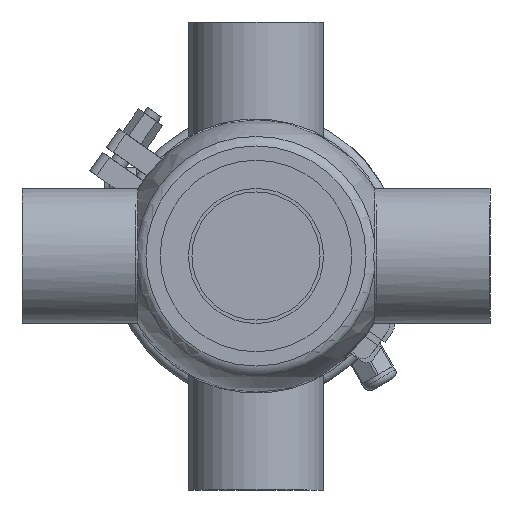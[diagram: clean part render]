
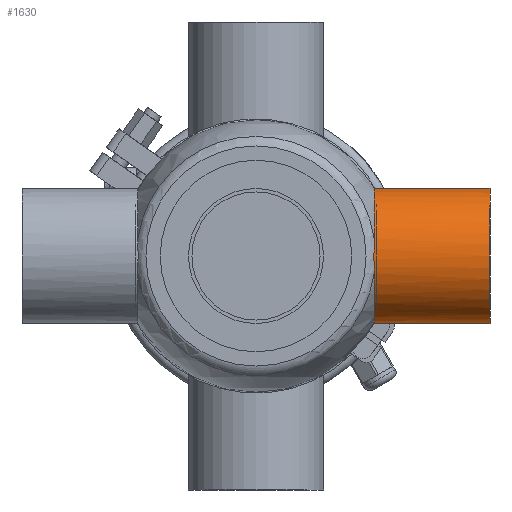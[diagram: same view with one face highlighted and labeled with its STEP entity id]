
A CAD part, front view. The second image highlights one B-rep face of the part: STEP entity #1630.
In plain terms, the highlighted cylindrical face has radius 31.75 mm (diameter 63.5 mm), a full revolution.
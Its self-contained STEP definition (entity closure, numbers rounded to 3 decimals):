
#11 = EDGE_CURVE ( 'NONE', #19818, #15975, #15822, .T. ) ;
#1630 = ADVANCED_FACE ( 'NONE', ( #40836, #50158 ), #21560, .T. ) ;
#2136 = CARTESIAN_POINT ( 'NONE',  ( 55.442, -31.749, 1.419 ) ) ;
#3130 = AXIS2_PLACEMENT_3D ( 'NONE', #39739, #45003, #26341 ) ;
#3895 = VERTEX_POINT ( 'NONE', #24007 ) ;
#6518 = CARTESIAN_POINT ( 'NONE',  ( 55.569, -30.657, -8.258 ) ) ;
#6833 = CARTESIAN_POINT ( 'NONE',  ( 55.468, -31.657, 2.799 ) ) ;
#7666 = CARTESIAN_POINT ( 'NONE',  ( 0., 0., 0. ) ) ;
#11752 = CARTESIAN_POINT ( 'NONE',  ( 55.569, -31.022, -6.903 ) ) ;
#14338 = CIRCLE ( 'NONE', #60042, 31.75 ) ;
#15822 = B_SPLINE_CURVE_WITH_KNOTS ( 'NONE', 3,
 ( #54321, #25705, #50241, #6833, #2136, #48999, #16066, #35040, #20447, #45277, #11752, #6518 ),
 .UNSPECIFIED., .F., .F.,
 ( 4, 2, 2, 2, 2, 4 ),
 ( 0., 0.004, 0.008, 0.01, 0.012, 0.017 ),
 .UNSPECIFIED. ) ;
#15975 = VERTEX_POINT ( 'NONE', #46880 ) ;
#16066 = CARTESIAN_POINT ( 'NONE',  ( 55.447, -31.729, -1.361 ) ) ;
#18385 = EDGE_CURVE ( 'NONE', #3895, #3895, #14338, .T. ) ;
#19818 = VERTEX_POINT ( 'NONE', #33155 ) ;
#20447 = CARTESIAN_POINT ( 'NONE',  ( 55.483, -31.569, -3.456 ) ) ;
#20952 = DIRECTION ( 'NONE',  ( -1., 0., 0. ) ) ;
#21234 = EDGE_LOOP ( 'NONE', ( #31595, #54291 ) ) ;
#21511 = DIRECTION ( 'NONE',  ( 0., 0., 1. ) ) ;
#21560 = CYLINDRICAL_SURFACE ( 'NONE', #42059, 31.75 ) ;
#24007 = CARTESIAN_POINT ( 'NONE',  ( 110., 0., 31.75 ) ) ;
#25705 = CARTESIAN_POINT ( 'NONE',  ( 55.569, -31.022, 6.904 ) ) ;
#26341 = DIRECTION ( 'NONE',  ( 0., 0., 1. ) ) ;
#30442 = EDGE_CURVE ( 'NONE', #15975, #19818, #51741, .T. ) ;
#31595 = ORIENTED_EDGE ( 'NONE', *, *, #30442, .T. ) ;
#33155 = CARTESIAN_POINT ( 'NONE',  ( 55.569, -30.657, 8.258 ) ) ;
#35040 = CARTESIAN_POINT ( 'NONE',  ( 55.468, -31.638, -2.759 ) ) ;
#35781 = DIRECTION ( 'NONE',  ( -1., 0., 0. ) ) ;
#39739 = CARTESIAN_POINT ( 'NONE',  ( 55.569, 0., 0. ) ) ;
#40836 = FACE_OUTER_BOUND ( 'NONE', #21234, .T. ) ;
#42059 = AXIS2_PLACEMENT_3D ( 'NONE', #7666, #20952, #59203 ) ;
#42754 = ORIENTED_EDGE ( 'NONE', *, *, #18385, .T. ) ;
#45003 = DIRECTION ( 'NONE',  ( 1., 0., 0. ) ) ;
#45277 = CARTESIAN_POINT ( 'NONE',  ( 55.532, -31.295, -5.534 ) ) ;
#46880 = CARTESIAN_POINT ( 'NONE',  ( 55.569, -30.657, -8.258 ) ) ;
#48999 = CARTESIAN_POINT ( 'NONE',  ( 55.442, -31.751, -0.664 ) ) ;
#50158 = FACE_OUTER_BOUND ( 'NONE', #58504, .T. ) ;
#50241 = CARTESIAN_POINT ( 'NONE',  ( 55.532, -31.293, 5.541 ) ) ;
#51741 = CIRCLE ( 'NONE', #3130, 31.75 ) ;
#54291 = ORIENTED_EDGE ( 'NONE', *, *, #11, .T. ) ;
#54321 = CARTESIAN_POINT ( 'NONE',  ( 55.569, -30.657, 8.258 ) ) ;
#54772 = CARTESIAN_POINT ( 'NONE',  ( 110., 0., 0. ) ) ;
#58504 = EDGE_LOOP ( 'NONE', ( #42754 ) ) ;
#59203 = DIRECTION ( 'NONE',  ( 0., 0., 1. ) ) ;
#60042 = AXIS2_PLACEMENT_3D ( 'NONE', #54772, #35781, #21511 ) ;
